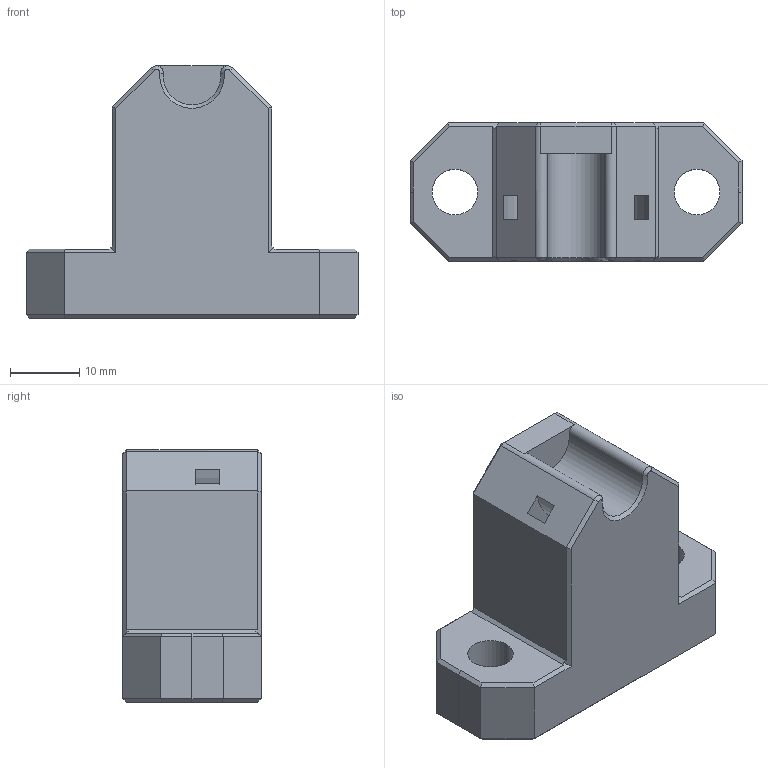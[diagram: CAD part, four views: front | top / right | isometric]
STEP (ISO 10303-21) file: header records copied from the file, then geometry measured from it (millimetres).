
FILE_DESCRIPTION(('CATIA V5 STEP Exchange'),'2;1');
FILE_NAME('D:\_이전 노트북\Cremaker모델링\Cremaker_profile-Metal(5차)-(Final)\Y-rod-support.stp','2020-10-23T05:17:25+00:00',('none'),('none'),'CATIA Version 5 Release 20 GA (IN-10)','CATIA V5 STEP AP203','none');
FILE_SCHEMA(('CONFIG_CONTROL_DESIGN'));
Length unit declared in the file: millimetre
Products named in the file (1): Y-rod-support
Bounding box: 48 x 20 x 36.5 mm (x, y, z)
Volume: 18902.2 mm3; surface area: 5647 mm2
Topology: 1 solids, 1 shells, 74 faces, 180 edges, 108 vertices
Faces by surface type: plane 54, cylinder 11, cone 9
Entity records: 2063 total; most frequent: CARTESIAN_POINT 388, ORIENTED_EDGE 360, DIRECTION 282, EDGE_CURVE 180, VECTOR 115, LINE 115, VERTEX_POINT 108, AXIS2_PLACEMENT_3D 101
